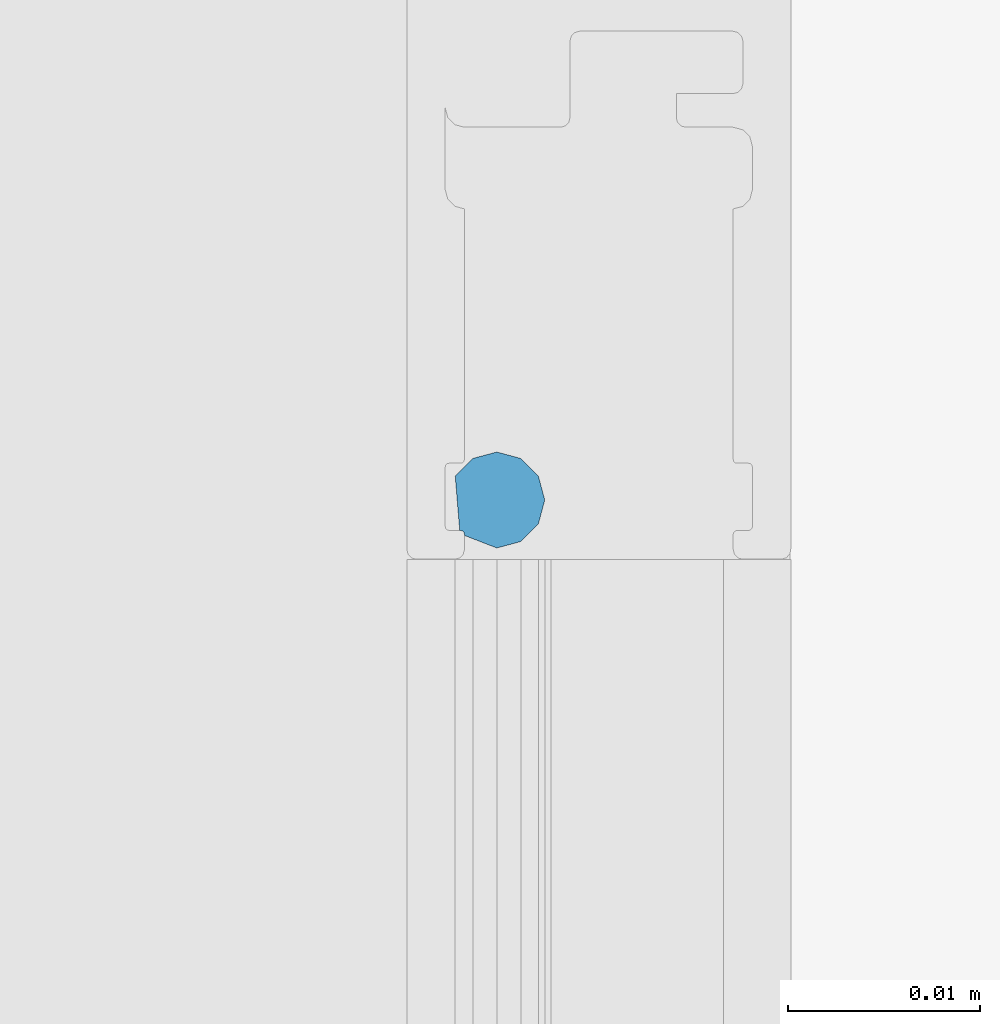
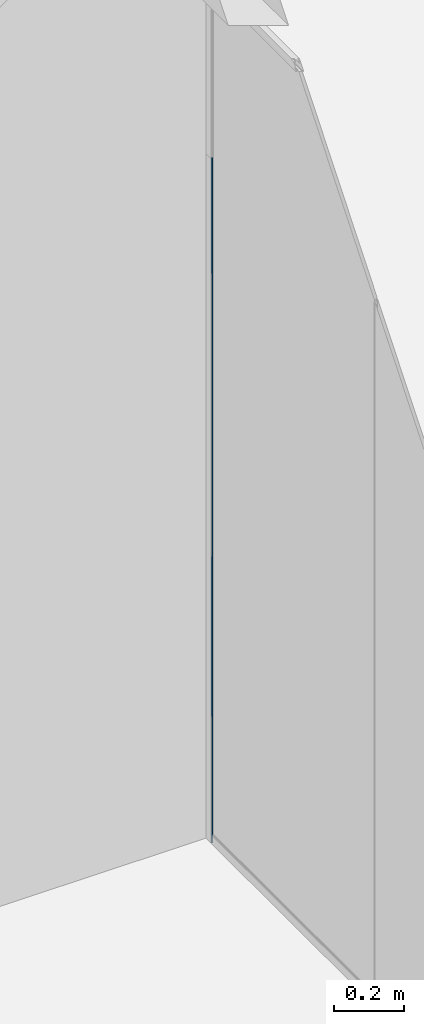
# One storey, part 57 of 387: 1 building element part, 2 elements without a shape of their own.
"""IFC2X3 building model written with IfcOpenShell, lengths in millimetres."""

from ifc_helpers import new_model, entity, si_unit, converted_unit, derived_unit, money_unit, direction, frame, origin_with_axes, place, context, subcontext, project, spatial, faceted_brep, source, transform, mapped, material, type_object, element, aggregate, save


model = new_model("IFC2X3")

# Units and contexts
model_context = context("Model", 3, precision=0.01, world=origin_with_axes(), true_north=direction((0.0, 1.0)))
body_context = subcontext(model_context, "Body", "Model", "MODEL_VIEW")
ifc_project = project(units=[si_unit("LENGTHUNIT", "METRE", prefix="MILLI"), si_unit("AREAUNIT", "SQUARE_METRE"), si_unit("VOLUMEUNIT", "CUBIC_METRE"), converted_unit("PLANEANGLEUNIT", "DEGREE", entity("IfcPlaneAngleMeasure", 0.0174532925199), si_unit("PLANEANGLEUNIT", "RADIAN"), dimensions=[0, 0, 0, 0, 0, 0, 0]), si_unit("SOLIDANGLEUNIT", "STERADIAN"), money_unit("EUR"), converted_unit("TIMEUNIT", "Year", entity("IfcTimeMeasure", 31556926.0), si_unit("TIMEUNIT", "SECOND"), dimensions=[0, 0, 1, 0, 0, 0, 0]), si_unit("MASSUNIT", "GRAM", prefix="KILO"), si_unit("THERMODYNAMICTEMPERATUREUNIT", "DEGREE_CELSIUS"), si_unit("LUMINOUSINTENSITYUNIT", "LUMEN"), si_unit("ENERGYUNIT", "JOULE", prefix="MEGA"), derived_unit("THERMALCONDUCTANCEUNIT", [(si_unit("POWERUNIT", "WATT"), 1), (si_unit("LENGTHUNIT", "METRE"), -1), (si_unit("THERMODYNAMICTEMPERATUREUNIT", "KELVIN"), -1)]), derived_unit("SPECIFICHEATCAPACITYUNIT", [(si_unit("ENERGYUNIT", "JOULE"), 1), (si_unit("MASSUNIT", "GRAM", prefix="KILO"), -1), (si_unit("THERMODYNAMICTEMPERATUREUNIT", "KELVIN"), -1)]), derived_unit("MASSDENSITYUNIT", [(si_unit("MASSUNIT", "GRAM", prefix="KILO"), 1), (si_unit("VOLUMEUNIT", "CUBIC_METRE"), -1)])], contexts=[model_context])

# Site, building, storey
site_placement = place(None, origin_with_axes())
site = spatial("IfcSite", under=ifc_project, at=site_placement, Name="Puškini 31, Narva", CompositionType="ELEMENT")
building_placement = place(site_placement, origin_with_axes())
building = spatial("IfcBuilding", under=site, at=building_placement, Name="Narva Riigigümnaasium", CompositionType="ELEMENT")
storey_placement = place(building_placement, frame((0.0, 0.0, 2640.0), z_axis=(0.0, 0.0, 1.0), x_axis=(1.0, 0.0, 0.0)))
storey = spatial("IfcBuildingStorey", under=building, at=storey_placement, Name="2.korrus +2.64", CompositionType="ELEMENT", Elevation=2640.0)

# Curtain wall, member, building element part
curtain_wall_type = type_object("IfcCurtainWallType", Name="Curtain Wall Type", PredefinedType="NOTDEFINED")
curtain_wall_placement = place(storey_placement, frame((28389.9972784, 173774.499972, -5.2224053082e-05), z_axis=(0.0, 0.0, 1.0), x_axis=(1.0, 0.0, 0.0)))
curtain_wall = element("IfcCurtainWall", 1, at=curtain_wall_placement, inside=storey, type_object=curtain_wall_type, Name="G-SKLF-15.2")
member_type = type_object("IfcMemberType", Name="Boundary Frame 30 x 10", PredefinedType="MULLION")
member_placement = place(curtain_wall_placement, frame((4.30731006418e-08, 1615.50017198, 0.0), z_axis=(0.0, -6.81473233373e-09, 1.0), x_axis=(0.0, -1.0, -6.81473233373e-09)))
member = element("IfcMember", 2, at=member_placement, type_object=member_type, Name="G-SKLF-98-raam", ObjectType="MULLION")
aggregate(curtain_wall, [member])
ifc_material = material(Name="Membraan - Veekindel")
shared_shape = source(origin_with_axes(), body_context, "Body", "Brep", [
    faceted_brep([(-28.5, 7.24760028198, -4.10349964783e-07), (-28.5, 7.24760028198, 2400.00005222), (-25.6641727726, 7.48000965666, 2400.00005222), (-25.6641727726, 7.48000965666, -4.10349964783e-07), (-28.5, 7.19999999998, -4.10349964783e-07), (-28.5, 7.19999999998, 2400.00005222), (-28.5267949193, 7.09999999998, 2400.00005222), (-28.6, 7.02679491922, 2400.00005222), (-28.7, 6.99999999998, 2400.00005222), (-28.7609519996, 6.99999999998, 2400.00005222), (-29.4141727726, 5.31494614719, 2400.00005222), (-29.079236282, 4.06494614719, 2400.00005222), (-28.1641727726, 3.14988263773, 2400.00005222), (-26.9141727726, 2.81494614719, 2400.00005222), (-25.6641727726, 3.14988263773, 2400.00005222), (-24.7491092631, 4.06494614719, 2400.00005222), (-24.4141727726, 5.31494614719, 2400.00005222), (-24.7491092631, 6.56494614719, 2400.00005222), (-24.7491092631, 6.56494614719, -4.10349964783e-07), (-24.4141727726, 5.31494614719, -4.10349964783e-07), (-24.7491092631, 4.06494614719, -4.10349964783e-07), (-25.6641727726, 3.14988263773, -4.10349964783e-07), (-26.9141727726, 2.81494614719, -4.10349964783e-07), (-28.1641727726, 3.14988263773, -4.10349964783e-07), (-29.079236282, 4.06494614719, -4.10349964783e-07), (-29.4141727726, 5.31494614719, -4.10349964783e-07), (-28.7609519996, 6.99999999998, -4.10349964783e-07), (-28.7, 6.99999999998, -4.10349964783e-07), (-28.6, 7.02679491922, -4.10349964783e-07), (-28.5267949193, 7.09999999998, -4.10349964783e-07)], [[[0, 1, 2, 3]], [[4, 5, 1, 0]], [[1, 5, 6, 7, 8, 9, 10, 11, 12, 13, 14, 15, 16, 17, 2]], [[3, 2, 17, 18]], [[0, 3, 18, 19, 20, 21, 22, 23, 24, 25, 26, 27, 28, 29, 4]], [[29, 6, 5, 4]], [[28, 7, 6, 29]], [[27, 8, 7, 28]], [[26, 9, 8, 27]], [[25, 10, 9, 26]], [[24, 11, 10, 25]], [[23, 12, 11, 24]], [[22, 13, 12, 23]], [[21, 14, 13, 22]], [[20, 15, 14, 21]], [[19, 16, 15, 20]], [[18, 17, 16, 19]]]),
])
building_element_part_placement = place(member_placement, origin_with_axes())
building_element_part = element("IfcBuildingElementPart", 3, at=building_element_part_placement, material=ifc_material, Name="Membraan - Veekindel", context=body_context, shape_type="MappedRepresentation", body=[
    mapped(shared_shape, transform((0.0, 0.0, 0.0), x_axis=(-1.0, 0.0, -6.81473233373e-09), y_axis=(0.0, -1.0, 0.0), z_axis=(-6.81473233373e-09, 0.0, 1.0))),
])
aggregate(member, [building_element_part])

save(model, "model.ifc")
